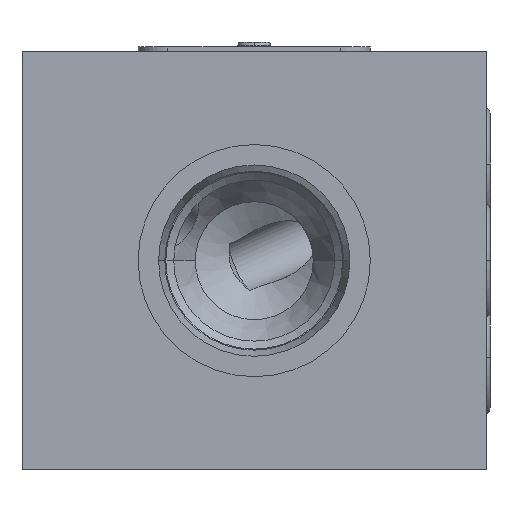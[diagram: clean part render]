
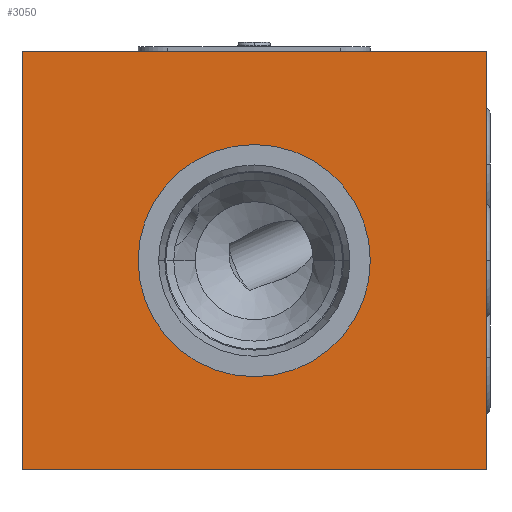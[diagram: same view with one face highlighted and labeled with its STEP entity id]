
A CAD part, left-side view. The second image highlights one B-rep face of the part: STEP entity #3050.
In plain terms, the highlighted planar face has unit normal (-1, 0, 0).
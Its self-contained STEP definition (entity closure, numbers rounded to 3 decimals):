
#55=DIRECTION('',(0.,0.,-1.));
#56=VECTOR('',#55,45.);
#57=CARTESIAN_POINT('',(0.,0.,0.));
#58=LINE('',#57,#56);
#62=DIRECTION('',(0.,1.,0.));
#63=VECTOR('',#62,50.);
#64=CARTESIAN_POINT('',(0.,0.,-45.));
#65=LINE('',#64,#63);
#69=DIRECTION('',(0.,0.,1.));
#70=VECTOR('',#69,45.);
#71=CARTESIAN_POINT('',(0.,50.,-45.));
#72=LINE('',#71,#70);
#76=DIRECTION('',(0.,-1.,0.));
#77=VECTOR('',#76,50.);
#78=CARTESIAN_POINT('',(0.,50.,0.));
#79=LINE('',#78,#77);
#83=CARTESIAN_POINT('',(0.,25.,-22.5));
#84=DIRECTION('',(1.,0.,0.));
#85=DIRECTION('',(0.,-1.,0.));
#86=AXIS2_PLACEMENT_3D('',#83,#84,#85);
#91=CARTESIAN_POINT('',(0.,25.,-22.5));
#92=DIRECTION('',(1.,0.,0.));
#93=DIRECTION('',(0.,1.,0.));
#94=AXIS2_PLACEMENT_3D('',#91,#92,#93);
#2744=CARTESIAN_POINT('',(0.,0.,0.));
#2745=CARTESIAN_POINT('',(0.,0.,-45.));
#2746=VERTEX_POINT('',#2744);
#2747=VERTEX_POINT('',#2745);
#2748=CARTESIAN_POINT('',(0.,50.,-45.));
#2749=VERTEX_POINT('',#2748);
#2750=CARTESIAN_POINT('',(0.,50.,0.));
#2751=VERTEX_POINT('',#2750);
#2864=CARTESIAN_POINT('',(0.,12.5,-22.5));
#2865=VERTEX_POINT('',#2864);
#2866=CARTESIAN_POINT('',(0.,37.5,-22.5));
#2867=VERTEX_POINT('',#2866);
#3029=CARTESIAN_POINT('',(0.,0.,0.));
#3030=DIRECTION('',(1.,0.,0.));
#3031=DIRECTION('',(0.,0.,-1.));
#3032=AXIS2_PLACEMENT_3D('',#3029,#3030,#3031);
#3033=PLANE('',#3032);
#3035=ORIENTED_EDGE('',*,*,#3034,.T.);
#3037=ORIENTED_EDGE('',*,*,#3036,.T.);
#3039=ORIENTED_EDGE('',*,*,#3038,.T.);
#3041=ORIENTED_EDGE('',*,*,#3040,.T.);
#3042=EDGE_LOOP('',(#3035,#3037,#3039,#3041));
#3043=FACE_OUTER_BOUND('',#3042,.F.);
#3045=ORIENTED_EDGE('',*,*,#3044,.F.);
#3047=ORIENTED_EDGE('',*,*,#3046,.F.);
#3048=EDGE_LOOP('',(#3045,#3047));
#3049=FACE_BOUND('',#3048,.F.);
#87=CIRCLE('',#86,12.5);
#95=CIRCLE('',#94,12.5);
#3034=EDGE_CURVE('',#2746,#2747,#58,.T.);
#3036=EDGE_CURVE('',#2747,#2749,#65,.T.);
#3038=EDGE_CURVE('',#2749,#2751,#72,.T.);
#3040=EDGE_CURVE('',#2751,#2746,#79,.T.);
#3044=EDGE_CURVE('',#2865,#2867,#87,.T.);
#3046=EDGE_CURVE('',#2867,#2865,#95,.T.);
#3050=ADVANCED_FACE('',(#3043,#3049),#3033,.F.);
